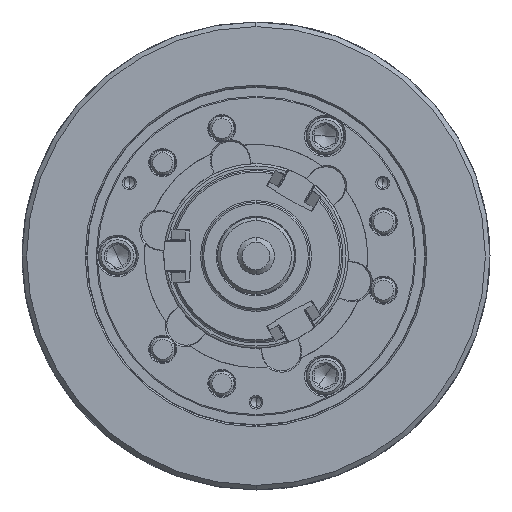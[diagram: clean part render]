
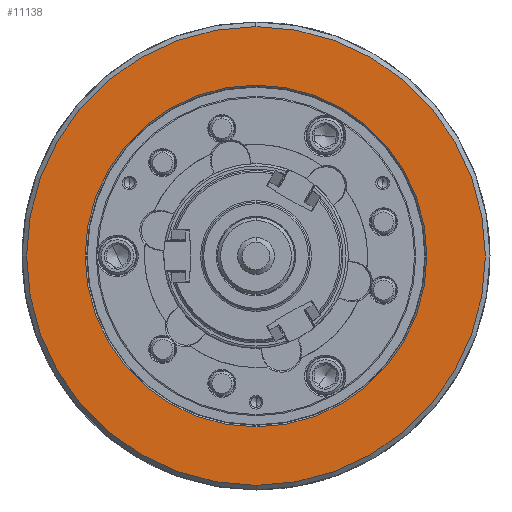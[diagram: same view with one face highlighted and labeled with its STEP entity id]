
A CAD part, left-side view. The second image highlights one B-rep face of the part: STEP entity #11138.
In plain terms, the highlighted planar face has unit normal (-1, 0, 0).
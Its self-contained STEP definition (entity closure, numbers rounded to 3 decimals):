
#1087 = VERTEX_POINT ( 'NONE', #1949 ) ;
#1949 = CARTESIAN_POINT ( 'NONE',  ( -106., 0., 149. ) ) ;
#2285 = AXIS2_PLACEMENT_3D ( 'NONE', #33525, #31684, #21667 ) ;
#2794 = CARTESIAN_POINT ( 'NONE',  ( -106., -111., 0. ) ) ;
#8935 = EDGE_LOOP ( 'NONE', ( #100693, #73083 ) ) ;
#10414 = CARTESIAN_POINT ( 'NONE',  ( -106., 0., 0. ) ) ;
#11138 = ADVANCED_FACE ( 'NONE', ( #39790, #108864 ), #99473, .F. ) ;
#14595 = CARTESIAN_POINT ( 'NONE',  ( -106., 0., 0. ) ) ;
#21084 = AXIS2_PLACEMENT_3D ( 'NONE', #59140, #97515, #88100 ) ;
#21667 = DIRECTION ( 'NONE',  ( 0., 0., -1. ) ) ;
#22830 = DIRECTION ( 'NONE',  ( 1., 0., 0. ) ) ;
#31684 = DIRECTION ( 'NONE',  ( 1., 0., 0. ) ) ;
#33525 = CARTESIAN_POINT ( 'NONE',  ( -106., 0., 0. ) ) ;
#37618 = EDGE_LOOP ( 'NONE', ( #84998, #120254 ) ) ;
#39790 = FACE_OUTER_BOUND ( 'NONE', #37618, .T. ) ;
#44337 = CIRCLE ( 'NONE', #2285, 149. ) ;
#44790 = CARTESIAN_POINT ( 'NONE',  ( -106., 0., -149. ) ) ;
#46395 = DIRECTION ( 'NONE',  ( 1., 0., 0. ) ) ;
#49960 = VERTEX_POINT ( 'NONE', #60404 ) ;
#52517 = EDGE_CURVE ( 'NONE', #1087, #91758, #57498, .T. ) ;
#57498 = CIRCLE ( 'NONE', #69563, 149. ) ;
#58107 = DIRECTION ( 'NONE',  ( 1., 0., 0. ) ) ;
#59140 = CARTESIAN_POINT ( 'NONE',  ( -106., 0., 0. ) ) ;
#59266 = DIRECTION ( 'NONE',  ( 0., 0., -1. ) ) ;
#60404 = CARTESIAN_POINT ( 'NONE',  ( -106., 0., -111. ) ) ;
#67549 = DIRECTION ( 'NONE',  ( 0., 0., -1. ) ) ;
#69134 = CIRCLE ( 'NONE', #21084, 111. ) ;
#69563 = AXIS2_PLACEMENT_3D ( 'NONE', #10414, #58107, #67549 ) ;
#71878 = AXIS2_PLACEMENT_3D ( 'NONE', #2794, #22830, #59266 ) ;
#73083 = ORIENTED_EDGE ( 'NONE', *, *, #90325, .T. ) ;
#79661 = CARTESIAN_POINT ( 'NONE',  ( -106., 0., 111. ) ) ;
#80223 = VERTEX_POINT ( 'NONE', #79661 ) ;
#83316 = EDGE_CURVE ( 'NONE', #80223, #49960, #86401, .T. ) ;
#84998 = ORIENTED_EDGE ( 'NONE', *, *, #85860, .F. ) ;
#85860 = EDGE_CURVE ( 'NONE', #91758, #1087, #44337, .T. ) ;
#86401 = CIRCLE ( 'NONE', #106372, 111. ) ;
#88100 = DIRECTION ( 'NONE',  ( 0., 0., -1. ) ) ;
#90325 = EDGE_CURVE ( 'NONE', #49960, #80223, #69134, .T. ) ;
#91758 = VERTEX_POINT ( 'NONE', #44790 ) ;
#97515 = DIRECTION ( 'NONE',  ( 1., 0., 0. ) ) ;
#99473 = PLANE ( 'NONE',  #71878 ) ;
#100659 = DIRECTION ( 'NONE',  ( 0., 0., -1. ) ) ;
#100693 = ORIENTED_EDGE ( 'NONE', *, *, #83316, .T. ) ;
#106372 = AXIS2_PLACEMENT_3D ( 'NONE', #14595, #46395, #100659 ) ;
#108864 = FACE_BOUND ( 'NONE', #8935, .T. ) ;
#120254 = ORIENTED_EDGE ( 'NONE', *, *, #52517, .F. ) ;
